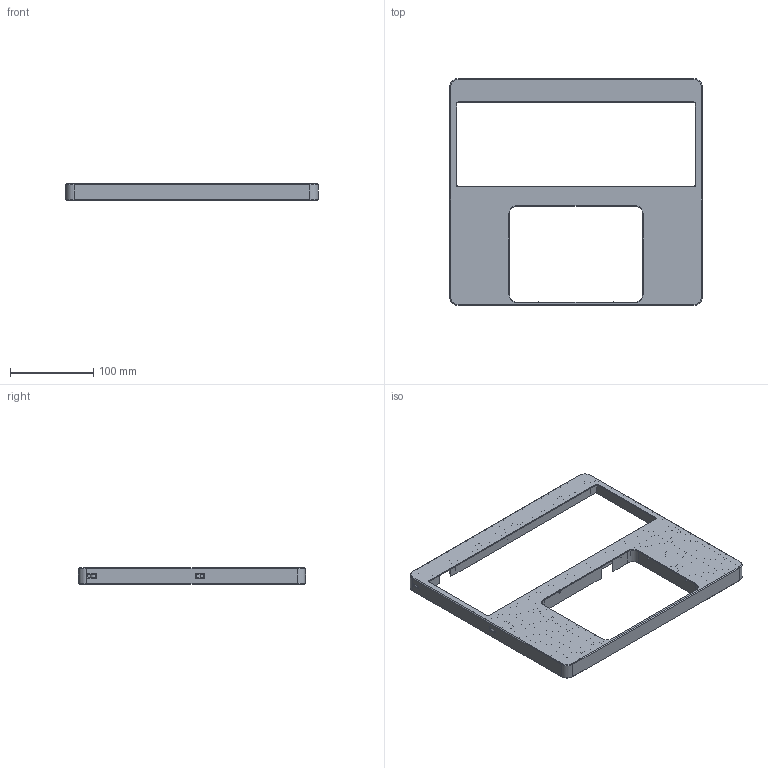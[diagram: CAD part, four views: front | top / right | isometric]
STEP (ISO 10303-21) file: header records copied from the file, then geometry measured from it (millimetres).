
FILE_DESCRIPTION(('Open CASCADE Model'),'2;1');
FILE_NAME('top_case','2026-11-19T00:45:34',('Author'),('Open CASCADE'), 'Open CASCADE STEP processor 8.0','build123d','Unknown');
FILE_SCHEMA(('AUTOMOTIVE_DESIGN { 1 0 10303 214 1 1 1 1 }'));
Length unit declared in the file: millimetre
Products named in the file (1): top_case
Bounding box: 303.6 x 273.22 x 19.75 mm (x, y, z)
Volume: 200364.7 mm3; surface area: 219166.6 mm2
Topology: 1 solids, 1 shells, 607 faces, 1523 edges, 1005 vertices
Faces by surface type: plane 482, cylinder 101, cone 24
Full cylindrical faces by diameter (mm): 4.2 x24, 7.5 x2
Entity records: 37360 total; most frequent: CARTESIAN_POINT 7810, DIRECTION 5042, LINE 3229, VECTOR 3229, ORIENTED_EDGE 3046, PCURVE 3046, DEFINITIONAL_REPRESENTATION 3046, EDGE_CURVE 1523
